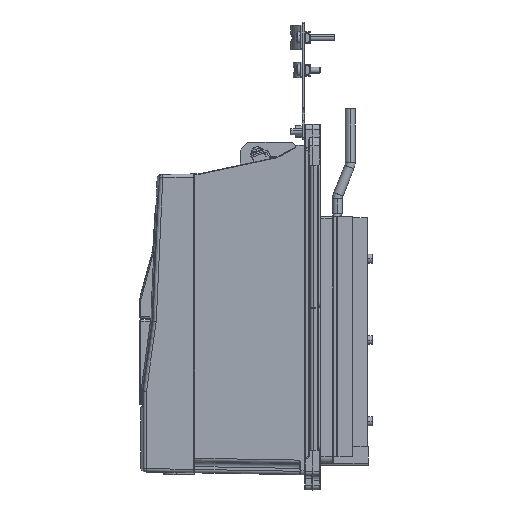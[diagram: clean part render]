
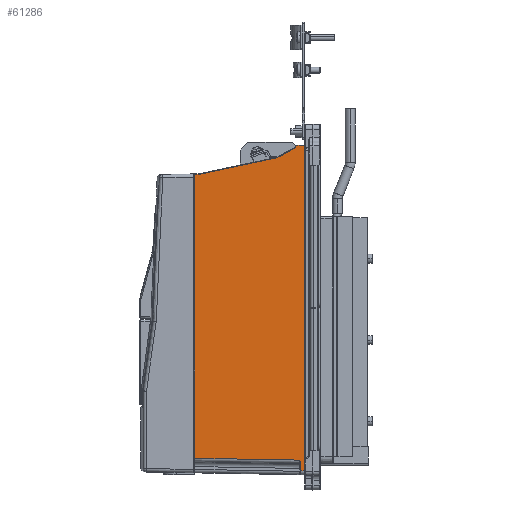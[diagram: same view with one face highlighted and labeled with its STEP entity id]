
A CAD part, left-side view. The second image highlights one B-rep face of the part: STEP entity #61286.
In plain terms, the highlighted planar face has unit normal (-1, 0.018, 0).
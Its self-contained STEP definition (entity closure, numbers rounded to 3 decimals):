
#483 = CARTESIAN_POINT ( 'NONE',  ( -110.734, -49.246, -155.402 ) ) ;
#926 = CARTESIAN_POINT ( 'NONE',  ( -110.747, -49.991, -165.929 ) ) ;
#3521 =( BOUNDED_CURVE ( )  B_SPLINE_CURVE ( 3, ( #29705, #71340, #19492, #61120 ),
 .UNSPECIFIED., .F., .F. ) 
 B_SPLINE_CURVE_WITH_KNOTS ( ( 4, 4 ),
 ( 4.712, 5.76 ),
 .UNSPECIFIED. ) 
 CURVE ( )  GEOMETRIC_REPRESENTATION_ITEM ( )  RATIONAL_B_SPLINE_CURVE ( ( 1., 0.911, 0.911, 1. ) ) 
 REPRESENTATION_ITEM ( '' )  );
#5591 = ORIENTED_EDGE ( 'NONE', *, *, #44273, .T. ) ;
#6809 = ORIENTED_EDGE ( 'NONE', *, *, #104729, .T. ) ;
#7400 = VECTOR ( 'NONE', #27755, 1000. ) ;
#7446 = CARTESIAN_POINT ( 'NONE',  ( -110.747, -49.991, -165.921 ) ) ;
#8416 = VERTEX_POINT ( 'NONE', #46951 ) ;
#9265 = LINE ( 'NONE', #133984, #134571 ) ;
#13351 = CARTESIAN_POINT ( 'NONE',  ( -110.649, -44.491, 163.917 ) ) ;
#13610 = VERTEX_POINT ( 'NONE', #23065 ) ;
#14538 = ORIENTED_EDGE ( 'NONE', *, *, #93382, .T. ) ;
#16810 = CARTESIAN_POINT ( 'NONE',  ( -110.819, -54., -166.001 ) ) ;
#18295 = EDGE_CURVE ( 'NONE', #130740, #13610, #9265, .T. ) ;
#19492 = CARTESIAN_POINT ( 'NONE',  ( -110.658, -44.991, 164.418 ) ) ;
#20039 = CARTESIAN_POINT ( 'NONE',  ( -110.33, -26.746, 153.671 ) ) ;
#21102 = VERTEX_POINT ( 'NONE', #88055 ) ;
#22284 = CARTESIAN_POINT ( 'NONE',  ( -110.747, -49.991, -157.617 ) ) ;
#22441 = CARTESIAN_POINT ( 'NONE',  ( -108.699, 64.136, -153.017 ) ) ;
#22862 = EDGE_LOOP ( 'NONE', ( #104969, #62667, #6809, #61975, #36033, #53896, #124626, #51200, #23066, #57225, #76566, #5591, #131480, #14538 ) ) ;
#23065 = CARTESIAN_POINT ( 'NONE',  ( -108.809, 58.009, -153.124 ) ) ;
#23066 = ORIENTED_EDGE ( 'NONE', *, *, #28038, .T. ) ;
#23395 = VECTOR ( 'NONE', #89533, 1000. ) ;
#25162 = VECTOR ( 'NONE', #28577, 1000. ) ;
#27755 = DIRECTION ( 'NONE',  ( -0.018, -1., -0.018 ) ) ;
#28038 = EDGE_CURVE ( 'NONE', #21102, #130740, #66017, .T. ) ;
#28577 = DIRECTION ( 'NONE',  ( 0., 0., -1. ) ) ;
#29200 = AXIS2_PLACEMENT_3D ( 'NONE', #67519, #96824, #64823 ) ;
#29705 = CARTESIAN_POINT ( 'NONE',  ( -110.649, -44.491, 163.917 ) ) ;
#29955 = EDGE_CURVE ( 'NONE', #41057, #113385, #115891, .T. ) ;
#31213 = CARTESIAN_POINT ( 'NONE',  ( -110.73, -49.009, -154.992 ) ) ;
#31469 = CARTESIAN_POINT ( 'NONE',  ( -110.33, -26.763, 153.681 ) ) ;
#34041 = VECTOR ( 'NONE', #93571, 1000. ) ;
#35483 =( BOUNDED_CURVE ( )  B_SPLINE_CURVE ( 3, ( #95003, #54767, #52093, #52751 ),
 .UNSPECIFIED., .F., .F. ) 
 B_SPLINE_CURVE_WITH_KNOTS ( ( 4, 4 ),
 ( 1.588, 1.78 ),
 .UNSPECIFIED. ) 
 CURVE ( )  GEOMETRIC_REPRESENTATION_ITEM ( )  RATIONAL_B_SPLINE_CURVE ( ( 1., 0.997, 0.997, 1. ) ) 
 REPRESENTATION_ITEM ( '' )  );
#36033 = ORIENTED_EDGE ( 'NONE', *, *, #46997, .T. ) ;
#36405 = CARTESIAN_POINT ( 'NONE',  ( -110.658, -44.991, 164.784 ) ) ;
#37191 = DIRECTION ( 'NONE',  ( 0., 0., -1. ) ) ;
#39842 = VERTEX_POINT ( 'NONE', #36405 ) ;
#40706 =( BOUNDED_CURVE ( )  B_SPLINE_CURVE ( 3, ( #113419, #51420, #20039, #61668 ),
 .UNSPECIFIED., .F., .F. ) 
 B_SPLINE_CURVE_WITH_KNOTS ( ( 4, 4 ),
 ( 4.398, 4.712 ),
 .UNSPECIFIED. ) 
 CURVE ( )  GEOMETRIC_REPRESENTATION_ITEM ( )  RATIONAL_B_SPLINE_CURVE ( ( 1., 0.992, 0.992, 1. ) ) 
 REPRESENTATION_ITEM ( '' )  );
#40749 = CARTESIAN_POINT ( 'NONE',  ( -110.745, -49.84, -156.69 ) ) ;
#41057 = VERTEX_POINT ( 'NONE', #92754 ) ;
#42086 = CARTESIAN_POINT ( 'NONE',  ( -110.743, -49.76, -156.465 ) ) ;
#44273 = EDGE_CURVE ( 'NONE', #79981, #8416, #133882, .T. ) ;
#45253 = LINE ( 'NONE', #99079, #23395 ) ;
#46951 = CARTESIAN_POINT ( 'NONE',  ( -110.747, -49.991, -157.617 ) ) ;
#46997 = EDGE_CURVE ( 'NONE', #53554, #59481, #92900, .T. ) ;
#49682 = VECTOR ( 'NONE', #105623, 1000. ) ;
#51200 = ORIENTED_EDGE ( 'NONE', *, *, #61854, .F. ) ;
#51420 = CARTESIAN_POINT ( 'NONE',  ( -110.328, -26.648, 153.633 ) ) ;
#52093 = CARTESIAN_POINT ( 'NONE',  ( -108.889, 53.518, 136.593 ) ) ;
#52751 = CARTESIAN_POINT ( 'NONE',  ( -108.891, 53.455, 136.607 ) ) ;
#53554 = VERTEX_POINT ( 'NONE', #13351 ) ;
#53896 = ORIENTED_EDGE ( 'NONE', *, *, #61777, .F. ) ;
#53967 = LINE ( 'NONE', #126170, #78886 ) ;
#54767 = CARTESIAN_POINT ( 'NONE',  ( -108.888, 53.582, 136.586 ) ) ;
#55257 = VECTOR ( 'NONE', #37191, 1000. ) ;
#56444 = EDGE_CURVE ( 'NONE', #123926, #99806, #53967, .T. ) ;
#57225 = ORIENTED_EDGE ( 'NONE', *, *, #18295, .T. ) ;
#57661 = VERTEX_POINT ( 'NONE', #16810 ) ;
#59481 = VERTEX_POINT ( 'NONE', #66859 ) ;
#61120 = CARTESIAN_POINT ( 'NONE',  ( -110.658, -44.991, 164.784 ) ) ;
#61286 = ADVANCED_FACE ( 'NONE', ( #98844 ), #119254, .F. ) ;
#61668 = CARTESIAN_POINT ( 'NONE',  ( -110.332, -26.837, 153.723 ) ) ;
#61777 = EDGE_CURVE ( 'NONE', #41057, #59481, #40706, .T. ) ;
#61854 = EDGE_CURVE ( 'NONE', #21102, #113385, #35483, .T. ) ;
#61975 = ORIENTED_EDGE ( 'NONE', *, *, #115385, .F. ) ;
#62667 = ORIENTED_EDGE ( 'NONE', *, *, #56444, .T. ) ;
#64690 = DIRECTION ( 'NONE',  ( 0.018, 1., -0.017 ) ) ;
#64823 = DIRECTION ( 'NONE',  ( 0.018, 1., 0. ) ) ;
#66017 = LINE ( 'NONE', #116423, #99403 ) ;
#66859 = CARTESIAN_POINT ( 'NONE',  ( -110.332, -26.837, 153.723 ) ) ;
#67519 = CARTESIAN_POINT ( 'NONE',  ( -108.8, 58.5, 170. ) ) ;
#70415 = CARTESIAN_POINT ( 'NONE',  ( -108.809, 58.009, 136.509 ) ) ;
#71340 = CARTESIAN_POINT ( 'NONE',  ( -110.654, -44.808, 164.1 ) ) ;
#73836 = CARTESIAN_POINT ( 'NONE',  ( -110.819, -54., 166. ) ) ;
#76566 = ORIENTED_EDGE ( 'NONE', *, *, #97085, .T. ) ;
#78886 = VECTOR ( 'NONE', #96202, 1000. ) ;
#79981 = VERTEX_POINT ( 'NONE', #31213 ) ;
#80627 = CARTESIAN_POINT ( 'NONE',  ( -108.891, 53.455, 136.607 ) ) ;
#82366 = CARTESIAN_POINT ( 'NONE',  ( -110.747, -49.956, -157.147 ) ) ;
#83687 = CARTESIAN_POINT ( 'NONE',  ( -110.747, -49.991, -157.379 ) ) ;
#88055 = CARTESIAN_POINT ( 'NONE',  ( -108.887, 53.646, 136.585 ) ) ;
#89533 = DIRECTION ( 'NONE',  ( 0., 0., -1. ) ) ;
#89807 = CARTESIAN_POINT ( 'NONE',  ( -108.693, 64.434, -163.895 ) ) ;
#92754 = CARTESIAN_POINT ( 'NONE',  ( -110.326, -26.545, 153.611 ) ) ;
#92900 = LINE ( 'NONE', #31469, #34041 ) ;
#93382 = EDGE_CURVE ( 'NONE', #130590, #57661, #101380, .T. ) ;
#93571 = DIRECTION ( 'NONE',  ( 0.016, 0.866, -0.5 ) ) ;
#95003 = CARTESIAN_POINT ( 'NONE',  ( -108.887, 53.646, 136.585 ) ) ;
#96202 = DIRECTION ( 'NONE',  ( 0.018, 1., 0. ) ) ;
#96584 = EDGE_CURVE ( 'NONE', #123926, #57661, #45253, .T. ) ;
#96824 = DIRECTION ( 'NONE',  ( 1., -0.018, 0. ) ) ;
#97085 = EDGE_CURVE ( 'NONE', #13610, #79981, #113818, .T. ) ;
#98844 = FACE_OUTER_BOUND ( 'NONE', #22862, .T. ) ;
#99079 = CARTESIAN_POINT ( 'NONE',  ( -110.819, -54., 170. ) ) ;
#99377 = CARTESIAN_POINT ( 'NONE',  ( -110.658, -44.991, 166. ) ) ;
#99403 = VECTOR ( 'NONE', #64690, 1000. ) ;
#99806 = VERTEX_POINT ( 'NONE', #99377 ) ;
#101380 = LINE ( 'NONE', #89807, #7400 ) ;
#104729 = EDGE_CURVE ( 'NONE', #99806, #39842, #129908, .T. ) ;
#104969 = ORIENTED_EDGE ( 'NONE', *, *, #96584, .F. ) ;
#105623 = DIRECTION ( 'NONE',  ( -0.018, -1., -0.017 ) ) ;
#110896 = DIRECTION ( 'NONE',  ( 0., 0., -1. ) ) ;
#113385 = VERTEX_POINT ( 'NONE', #80627 ) ;
#113419 = CARTESIAN_POINT ( 'NONE',  ( -110.326, -26.545, 153.611 ) ) ;
#113818 = LINE ( 'NONE', #22441, #49682 ) ;
#115385 = EDGE_CURVE ( 'NONE', #53554, #39842, #3521, .T. ) ;
#115891 = LINE ( 'NONE', #126777, #118697 ) ;
#116423 = CARTESIAN_POINT ( 'NONE',  ( -108.81, 57.916, 136.51 ) ) ;
#117255 = DIRECTION ( 'NONE',  ( 0.018, 0.978, -0.208 ) ) ;
#118697 = VECTOR ( 'NONE', #117255, 1000. ) ;
#119254 = PLANE ( 'NONE',  #29200 ) ;
#121944 = LINE ( 'NONE', #7446, #25162 ) ;
#123926 = VERTEX_POINT ( 'NONE', #73836 ) ;
#124534 = CARTESIAN_POINT ( 'NONE',  ( -110.73, -49.009, -154.992 ) ) ;
#124626 = ORIENTED_EDGE ( 'NONE', *, *, #29955, .T. ) ;
#126170 = CARTESIAN_POINT ( 'NONE',  ( -108.8, 58.5, 166. ) ) ;
#126777 = CARTESIAN_POINT ( 'NONE',  ( -108.926, 51.493, 137.024 ) ) ;
#129908 = LINE ( 'NONE', #130561, #55257 ) ;
#130561 = CARTESIAN_POINT ( 'NONE',  ( -110.658, -44.991, 170. ) ) ;
#130590 = VERTEX_POINT ( 'NONE', #926 ) ;
#130740 = VERTEX_POINT ( 'NONE', #70415 ) ;
#131480 = ORIENTED_EDGE ( 'NONE', *, *, #134525, .T. ) ;
#133882 = B_SPLINE_CURVE_WITH_KNOTS ( 'NONE', 3,
 ( #124534, #483, #134102, #42086, #40749, #82366, #83687, #22284 ),
 .UNSPECIFIED., .F., .F.,
 ( 4, 2, 2, 4 ),
 ( 0., 0.001, 0.002, 0.003 ),
 .UNSPECIFIED. ) ;
#133984 = CARTESIAN_POINT ( 'NONE',  ( -108.809, 58.009, 170. ) ) ;
#134102 = CARTESIAN_POINT ( 'NONE',  ( -110.738, -49.482, -155.814 ) ) ;
#134525 = EDGE_CURVE ( 'NONE', #8416, #130590, #121944, .T. ) ;
#134571 = VECTOR ( 'NONE', #110896, 1000. ) ;
